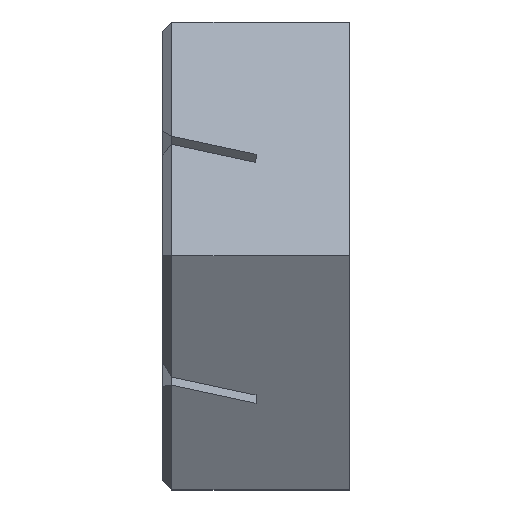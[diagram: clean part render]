
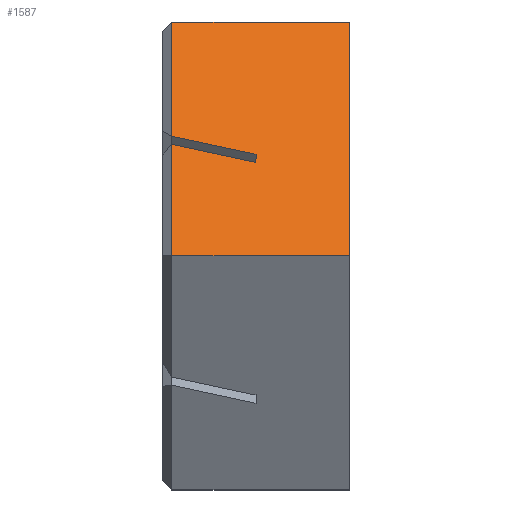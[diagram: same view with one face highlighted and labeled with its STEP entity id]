
A CAD part, top view. The second image highlights one B-rep face of the part: STEP entity #1587.
In plain terms, the highlighted planar face has unit normal (0, 0.5, 0.866).
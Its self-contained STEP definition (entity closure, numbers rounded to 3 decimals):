
#12 = EDGE_CURVE ( 'NONE', #1998, #727, #1576, .T. ) ;
#104 = EDGE_CURVE ( 'NONE', #857, #2049, #1222, .T. ) ;
#120 = DIRECTION ( 'NONE',  ( -0.97, 0.21, -0.121 ) ) ;
#159 = CARTESIAN_POINT ( 'NONE',  ( 0., 42.964, 11.555 ) ) ;
#194 = CARTESIAN_POINT ( 'NONE',  ( 5., 15.745, 27.27 ) ) ;
#199 = VECTOR ( 'NONE', #2074, 1000. ) ;
#235 = DIRECTION ( 'NONE',  ( 0., -0.866, 0.5 ) ) ;
#255 = CARTESIAN_POINT ( 'NONE',  ( -4.5, 44.477, 10.682 ) ) ;
#330 = VERTEX_POINT ( 'NONE', #1499 ) ;
#376 = LINE ( 'NONE', #1375, #483 ) ;
#387 = ORIENTED_EDGE ( 'NONE', *, *, #1309, .T. ) ;
#428 = FACE_OUTER_BOUND ( 'NONE', #632, .T. ) ;
#483 = VECTOR ( 'NONE', #1216, 1000. ) ;
#488 = CARTESIAN_POINT ( 'NONE',  ( -4.5, 43.936, 10.994 ) ) ;
#495 = CARTESIAN_POINT ( 'NONE',  ( 5., 15.745, 27.27 ) ) ;
#522 = DIRECTION ( 'NONE',  ( 0., 0.5, 0.866 ) ) ;
#530 = EDGE_CURVE ( 'NONE', #330, #1998, #650, .T. ) ;
#541 = LINE ( 'NONE', #255, #1489 ) ;
#545 = ORIENTED_EDGE ( 'NONE', *, *, #530, .T. ) ;
#567 = VECTOR ( 'NONE', #729, 1000. ) ;
#632 = EDGE_LOOP ( 'NONE', ( #1709, #1240, #1032, #545, #1734, #387, #2017, #1993 ) ) ;
#634 = VECTOR ( 'NONE', #1557, 1000. ) ;
#650 = LINE ( 'NONE', #1407, #199 ) ;
#727 = VERTEX_POINT ( 'NONE', #488 ) ;
#729 = DIRECTION ( 'NONE',  ( 0.97, -0.21, 0.121 ) ) ;
#733 = CARTESIAN_POINT ( 'NONE',  ( 5., 50.478, 7.217 ) ) ;
#772 = DIRECTION ( 'NONE',  ( -1., 0., 0. ) ) ;
#794 = CARTESIAN_POINT ( 'NONE',  ( -4.5, 37.978, 14.434 ) ) ;
#805 = EDGE_CURVE ( 'NONE', #2049, #1125, #541, .T. ) ;
#830 = CARTESIAN_POINT ( 'NONE',  ( -4.5, 50.478, 7.217 ) ) ;
#857 = VERTEX_POINT ( 'NONE', #1699 ) ;
#863 = VERTEX_POINT ( 'NONE', #871 ) ;
#871 = CARTESIAN_POINT ( 'NONE',  ( 5., 37.978, 14.434 ) ) ;
#889 = LINE ( 'NONE', #1527, #567 ) ;
#1032 = ORIENTED_EDGE ( 'NONE', *, *, #1422, .T. ) ;
#1064 = CARTESIAN_POINT ( 'NONE',  ( 5., 37.978, 14.434 ) ) ;
#1070 = PLANE ( 'NONE',  #1752 ) ;
#1076 = VECTOR ( 'NONE', #120, 1000. ) ;
#1107 = EDGE_CURVE ( 'NONE', #863, #857, #1612, .T. ) ;
#1125 = VERTEX_POINT ( 'NONE', #1312 ) ;
#1216 = DIRECTION ( 'NONE',  ( 0., -0.866, 0.5 ) ) ;
#1222 = LINE ( 'NONE', #733, #2079 ) ;
#1240 = ORIENTED_EDGE ( 'NONE', *, *, #805, .T. ) ;
#1309 = EDGE_CURVE ( 'NONE', #727, #1860, #376, .T. ) ;
#1312 = CARTESIAN_POINT ( 'NONE',  ( -4.5, 44.369, 10.744 ) ) ;
#1375 = CARTESIAN_POINT ( 'NONE',  ( -4.5, 37.978, 14.434 ) ) ;
#1407 = CARTESIAN_POINT ( 'NONE',  ( 0., 42.221, 11.984 ) ) ;
#1422 = EDGE_CURVE ( 'NONE', #1125, #330, #889, .T. ) ;
#1489 = VECTOR ( 'NONE', #235, 1000. ) ;
#1499 = CARTESIAN_POINT ( 'NONE',  ( 0., 43.397, 11.305 ) ) ;
#1527 = CARTESIAN_POINT ( 'NONE',  ( -4.798, 44.433, 10.707 ) ) ;
#1557 = DIRECTION ( 'NONE',  ( -1., 0., 0. ) ) ;
#1576 = LINE ( 'NONE', #1882, #1076 ) ;
#1587 = ADVANCED_FACE ( 'NONE', ( #428 ), #1070, .T. ) ;
#1612 = LINE ( 'NONE', #495, #1625 ) ;
#1625 = VECTOR ( 'NONE', #1975, 1000. ) ;
#1699 = CARTESIAN_POINT ( 'NONE',  ( 5., 50.478, 7.217 ) ) ;
#1709 = ORIENTED_EDGE ( 'NONE', *, *, #104, .T. ) ;
#1727 = LINE ( 'NONE', #1064, #634 ) ;
#1734 = ORIENTED_EDGE ( 'NONE', *, *, #12, .T. ) ;
#1752 = AXIS2_PLACEMENT_3D ( 'NONE', #194, #522, #1968 ) ;
#1856 = EDGE_CURVE ( 'NONE', #863, #1860, #1727, .T. ) ;
#1860 = VERTEX_POINT ( 'NONE', #794 ) ;
#1882 = CARTESIAN_POINT ( 'NONE',  ( -4.798, 44., 10.957 ) ) ;
#1968 = DIRECTION ( 'NONE',  ( 0., -0.866, 0.5 ) ) ;
#1975 = DIRECTION ( 'NONE',  ( 0., 0.866, -0.5 ) ) ;
#1993 = ORIENTED_EDGE ( 'NONE', *, *, #1107, .T. ) ;
#1998 = VERTEX_POINT ( 'NONE', #159 ) ;
#2017 = ORIENTED_EDGE ( 'NONE', *, *, #1856, .F. ) ;
#2049 = VERTEX_POINT ( 'NONE', #830 ) ;
#2074 = DIRECTION ( 'NONE',  ( 0., -0.866, 0.5 ) ) ;
#2079 = VECTOR ( 'NONE', #772, 1000. ) ;
